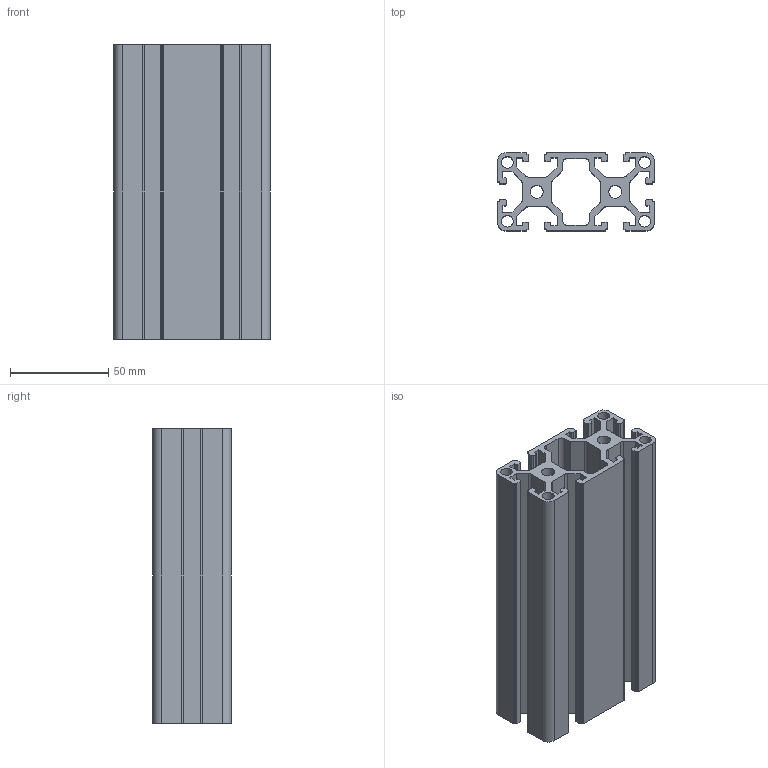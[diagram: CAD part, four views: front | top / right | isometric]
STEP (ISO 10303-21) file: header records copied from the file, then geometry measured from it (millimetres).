
FILE_DESCRIPTION((''),'2;1');
FILE_NAME('E:\catalogue and flyer\Profile catalogue 2015\profile-step file,31MAr16\PS4080-8.stp','2016-03-31T14:12:16',('h029'),(''),'Autodesk Inventor 11','Autodesk Inventor 11','');
FILE_SCHEMA(('AUTOMOTIVE_DESIGN { 1 0 10303 214 1 1 1 1 }'));
Length unit declared in the file: millimetre
Products named in the file (1): ps4080-8
Bounding box: 80 x 40 x 150 mm (x, y, z)
Volume: 181477.7 mm3; surface area: 114806.4 mm2
Topology: 1 solids, 1 shells, 208 faces, 618 edges, 412 vertices
Faces by surface type: plane 126, cylinder 82
Full cylindrical faces by diameter (mm): 6 x4, 6.7 x2
Entity records: 7007 total; most frequent: CARTESIAN_POINT 1233, ORIENTED_EDGE 1224, DIRECTION 1194, EDGE_CURVE 612, VECTOR 448, LINE 448, VERTEX_POINT 412, AXIS2_PLACEMENT_3D 373
